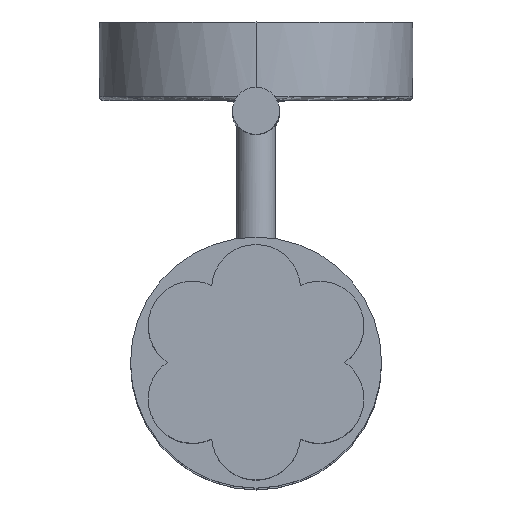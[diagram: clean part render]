
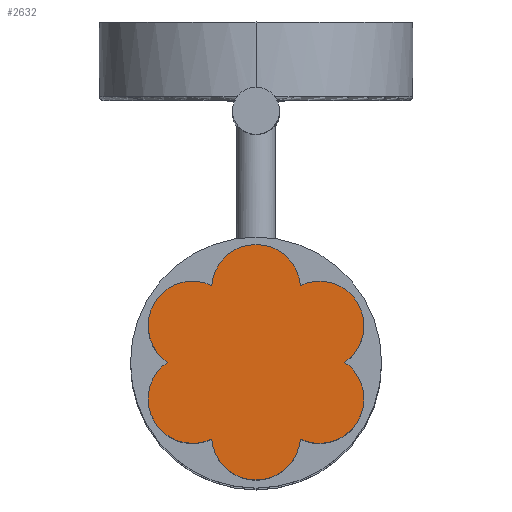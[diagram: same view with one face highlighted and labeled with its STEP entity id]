
A CAD part, top view. The second image highlights one B-rep face of the part: STEP entity #2632.
In plain terms, the highlighted planar face has unit normal (0, 0, 1).
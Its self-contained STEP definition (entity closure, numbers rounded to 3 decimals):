
#15 = ORIENTED_EDGE ( 'NONE', *, *, #483, .T. ) ;
#98 = CIRCLE ( 'NONE', #648, 11.33 ) ;
#131 = DIRECTION ( 'NONE',  ( 0.567, -0.824, 0. ) ) ;
#172 = CIRCLE ( 'NONE', #3399, 11.33 ) ;
#229 = VERTEX_POINT ( 'NONE', #4372 ) ;
#335 = CARTESIAN_POINT ( 'NONE',  ( 63539.919, -124.335, 933.473 ) ) ;
#405 = VERTEX_POINT ( 'NONE', #690 ) ;
#407 = VERTEX_POINT ( 'NONE', #3779 ) ;
#483 = EDGE_CURVE ( 'NONE', #2739, #2466, #3785, .T. ) ;
#493 = ORIENTED_EDGE ( 'NONE', *, *, #1905, .T. ) ;
#648 = AXIS2_PLACEMENT_3D ( 'NONE', #4968, #4080, #131 ) ;
#669 = DIRECTION ( 'NONE',  ( 0., 0., 1. ) ) ;
#690 = CARTESIAN_POINT ( 'NONE',  ( 63578.677, -115., 933.473 ) ) ;
#799 = ORIENTED_EDGE ( 'NONE', *, *, #3595, .T. ) ;
#828 = DIRECTION ( 'NONE',  ( 0., 0., 1. ) ) ;
#859 = CARTESIAN_POINT ( 'NONE',  ( 63572.256, -124.335, 933.473 ) ) ;
#946 = EDGE_CURVE ( 'NONE', #3902, #229, #5354, .T. ) ;
#1023 = ORIENTED_EDGE ( 'NONE', *, *, #946, .T. ) ;
#1125 = CARTESIAN_POINT ( 'NONE',  ( 63572.256, -124.335, 933.473 ) ) ;
#1296 = AXIS2_PLACEMENT_3D ( 'NONE', #1125, #2873, #4203 ) ;
#1320 = DIRECTION ( 'NONE',  ( -0.43, -0.903, 0. ) ) ;
#1510 = DIRECTION ( 'NONE',  ( 0.997, 0.079, 0. ) ) ;
#1586 = CIRCLE ( 'NONE', #5449, 11.33 ) ;
#1592 = AXIS2_PLACEMENT_3D ( 'NONE', #3363, #1984, #4703 ) ;
#1725 = EDGE_CURVE ( 'NONE', #2466, #405, #1586, .T. ) ;
#1840 = AXIS2_PLACEMENT_3D ( 'NONE', #2409, #3581, #5500 ) ;
#1882 = FACE_OUTER_BOUND ( 'NONE', #2434, .T. ) ;
#1905 = EDGE_CURVE ( 'NONE', #5483, #407, #3887, .T. ) ;
#1984 = DIRECTION ( 'NONE',  ( 0., 0., 1. ) ) ;
#2041 = AXIS2_PLACEMENT_3D ( 'NONE', #5543, #5601, #2452 ) ;
#2341 = ORIENTED_EDGE ( 'NONE', *, *, #4775, .T. ) ;
#2372 = CIRCLE ( 'NONE', #3485, 11.33 ) ;
#2409 = CARTESIAN_POINT ( 'NONE',  ( 63521.714, -152.5, 933.473 ) ) ;
#2434 = EDGE_LOOP ( 'NONE', ( #799, #2341, #15, #4787, #5420, #493, #2488, #1023 ) ) ;
#2452 = DIRECTION ( 'NONE',  ( 0.43, 0.903, 0. ) ) ;
#2466 = VERTEX_POINT ( 'NONE', #3926 ) ;
#2488 = ORIENTED_EDGE ( 'NONE', *, *, #5061, .T. ) ;
#2632 = ADVANCED_FACE ( 'NONE', ( #1882 ), #3554, .T. ) ;
#2739 = VERTEX_POINT ( 'NONE', #3885 ) ;
#2873 = DIRECTION ( 'NONE',  ( 0., 0., 1. ) ) ;
#2988 = EDGE_CURVE ( 'NONE', #405, #5483, #98, .T. ) ;
#3213 = CIRCLE ( 'NONE', #5230, 11.33 ) ;
#3363 = CARTESIAN_POINT ( 'NONE',  ( 63572.256, -105.665, 933.473 ) ) ;
#3399 = AXIS2_PLACEMENT_3D ( 'NONE', #335, #5062, #5501 ) ;
#3482 = DIRECTION ( 'NONE',  ( -0.997, -0.079, 0. ) ) ;
#3485 = AXIS2_PLACEMENT_3D ( 'NONE', #5181, #828, #3482 ) ;
#3554 = PLANE ( 'NONE',  #1840 ) ;
#3581 = DIRECTION ( 'NONE',  ( 0., 0., 1. ) ) ;
#3595 = EDGE_CURVE ( 'NONE', #229, #4156, #172, .T. ) ;
#3643 = CARTESIAN_POINT ( 'NONE',  ( 63556.087, -96.33, 933.473 ) ) ;
#3779 = CARTESIAN_POINT ( 'NONE',  ( 63567.382, -95.436, 933.473 ) ) ;
#3785 = CIRCLE ( 'NONE', #1296, 11.33 ) ;
#3885 = CARTESIAN_POINT ( 'NONE',  ( 63567.382, -134.564, 933.473 ) ) ;
#3887 = CIRCLE ( 'NONE', #1592, 11.33 ) ;
#3902 = VERTEX_POINT ( 'NONE', #4130 ) ;
#3926 = CARTESIAN_POINT ( 'NONE',  ( 63583.586, -124.335, 933.473 ) ) ;
#4080 = DIRECTION ( 'NONE',  ( 0., 0., 1. ) ) ;
#4130 = CARTESIAN_POINT ( 'NONE',  ( 63544.792, -95.436, 933.473 ) ) ;
#4156 = VERTEX_POINT ( 'NONE', #4547 ) ;
#4203 = DIRECTION ( 'NONE',  ( -0.43, -0.903, 0. ) ) ;
#4372 = CARTESIAN_POINT ( 'NONE',  ( 63533.497, -115., 933.473 ) ) ;
#4547 = CARTESIAN_POINT ( 'NONE',  ( 63544.792, -134.564, 933.473 ) ) ;
#4703 = DIRECTION ( 'NONE',  ( 0.567, -0.824, 0. ) ) ;
#4775 = EDGE_CURVE ( 'NONE', #4156, #2739, #2372, .T. ) ;
#4787 = ORIENTED_EDGE ( 'NONE', *, *, #1725, .T. ) ;
#4968 = CARTESIAN_POINT ( 'NONE',  ( 63572.256, -105.665, 933.473 ) ) ;
#5061 = EDGE_CURVE ( 'NONE', #407, #3902, #3213, .T. ) ;
#5062 = DIRECTION ( 'NONE',  ( 0., 0., 1. ) ) ;
#5181 = CARTESIAN_POINT ( 'NONE',  ( 63556.087, -133.67, 933.473 ) ) ;
#5203 = DIRECTION ( 'NONE',  ( 0., 0., 1. ) ) ;
#5230 = AXIS2_PLACEMENT_3D ( 'NONE', #3643, #669, #1510 ) ;
#5354 = CIRCLE ( 'NONE', #2041, 11.33 ) ;
#5420 = ORIENTED_EDGE ( 'NONE', *, *, #2988, .T. ) ;
#5449 = AXIS2_PLACEMENT_3D ( 'NONE', #859, #5203, #1320 ) ;
#5483 = VERTEX_POINT ( 'NONE', #5621 ) ;
#5500 = DIRECTION ( 'NONE',  ( 1., 0., 0. ) ) ;
#5501 = DIRECTION ( 'NONE',  ( -0.567, 0.824, 0. ) ) ;
#5543 = CARTESIAN_POINT ( 'NONE',  ( 63539.919, -105.665, 933.473 ) ) ;
#5601 = DIRECTION ( 'NONE',  ( 0., 0., 1. ) ) ;
#5621 = CARTESIAN_POINT ( 'NONE',  ( 63583.586, -105.665, 933.473 ) ) ;
